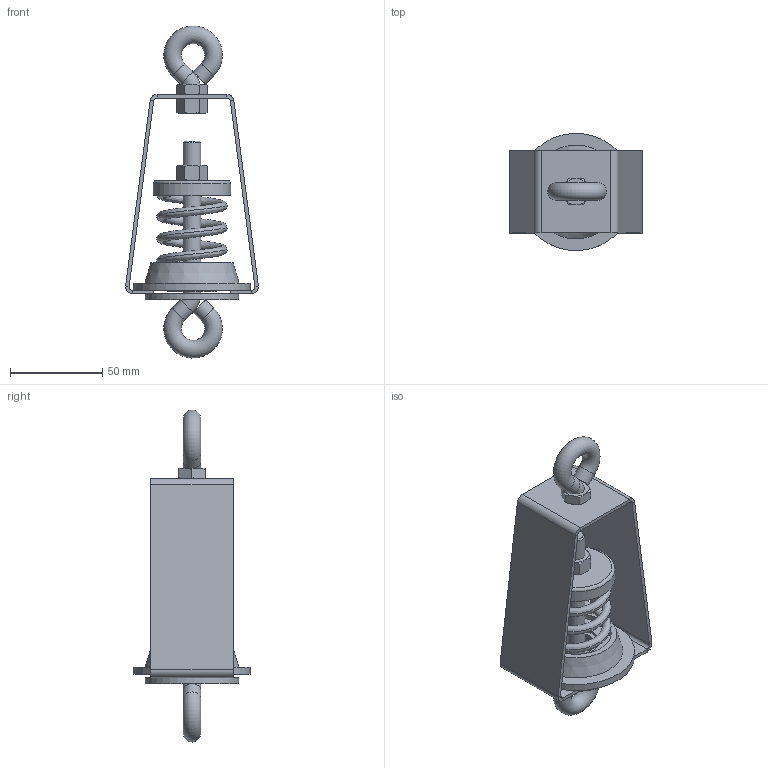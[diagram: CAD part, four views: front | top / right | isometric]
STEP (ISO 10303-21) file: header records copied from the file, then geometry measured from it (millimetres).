
FILE_DESCRIPTION(/* description */ (''),/* implementation_level */ '2;1');
FILE_NAME(/* name */ 'C:\001_Work\Designs\HANGER BOXES\ARCHITECTURAL CEILING HANGERS\W30-X\W30-X-210.stp',/* time_stamp */ '2016-01-28T10:35:08-05:00',/* author */ ('rramoutar'),/* organization */ ('Mason Industries Inc.'),/* preprocessor_version */ 'ST-DEVELOPER v15.6',/* originating_system */ 'Autodesk Inventor 2015',/* authorisation */ '');
FILE_SCHEMA (('CONFIG_CONTROL_DESIGN'));
Length unit declared in the file: inch
Products named in the file (1): W30-X HANGER ASSY
Bounding box: 71.95 x 63.36 x 179.84 mm (x, y, z)
Volume: 80267.7 mm3; surface area: 69801 mm2
Topology: 12 solids, 12 shells, 183 faces, 390 edges, 233 vertices
Faces by surface type: plane 78, cone 45, cylinder 33, bspline 22, torus 5
Full cylindrical faces by diameter (mm): 7.798 x3, 9.525 x6, 10.319 x2, 11.112 x1, 20.637 x1, 25.4 x1, 26.987 x2, 38.1 x1, 38.894 x1, 39.687 x1, 39.688 x1, 41.906 x1, 50.8 x1, 63.5 x1
Entity records: 11061 total; most frequent: CARTESIAN_POINT 7363, ORIENTED_EDGE 686, DIRECTION 662, EDGE_CURVE 343, AXIS2_PLACEMENT_3D 277, EDGE_LOOP 244, VERTEX_POINT 223, STYLED_ITEM 195
